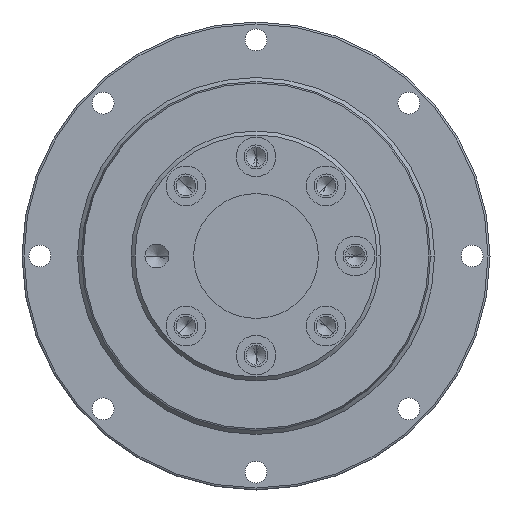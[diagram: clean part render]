
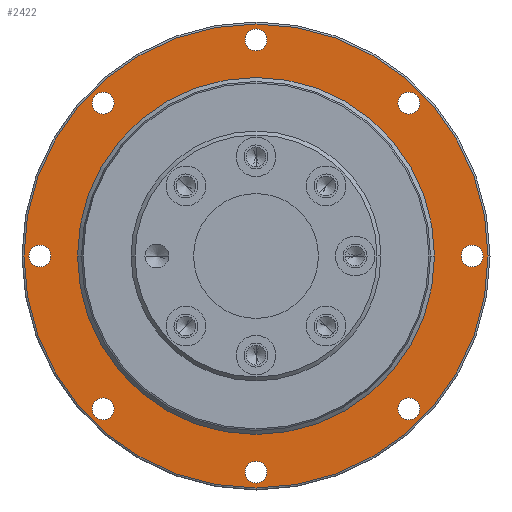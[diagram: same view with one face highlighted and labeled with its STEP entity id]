
A CAD part, left-side view. The second image highlights one B-rep face of the part: STEP entity #2422.
In plain terms, the highlighted planar face has unit normal (-1, 0, 0) as drawn and (1, 0, 0) by its records, which use the part's own axes.
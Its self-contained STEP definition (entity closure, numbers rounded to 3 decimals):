
#83=CARTESIAN_POINT('',(0.,38.537,-38.537));
#84=DIRECTION('',(-1.,0.,0.));
#85=DIRECTION('',(0.,-1.,0.));
#86=AXIS2_PLACEMENT_3D('',#83,#84,#85);
#88=CARTESIAN_POINT('',(0.,38.537,-38.537));
#89=DIRECTION('',(-1.,0.,0.));
#90=DIRECTION('',(0.,1.,0.));
#91=AXIS2_PLACEMENT_3D('',#88,#89,#90);
#93=CARTESIAN_POINT('',(0.,0.,-54.5));
#94=DIRECTION('',(-1.,0.,0.));
#95=DIRECTION('',(0.,-1.,0.));
#96=AXIS2_PLACEMENT_3D('',#93,#94,#95);
#98=CARTESIAN_POINT('',(0.,0.,-54.5));
#99=DIRECTION('',(-1.,0.,0.));
#100=DIRECTION('',(0.,1.,0.));
#101=AXIS2_PLACEMENT_3D('',#98,#99,#100);
#103=CARTESIAN_POINT('',(0.,-38.537,-38.537));
#104=DIRECTION('',(-1.,0.,0.));
#105=DIRECTION('',(0.,-1.,0.));
#106=AXIS2_PLACEMENT_3D('',#103,#104,#105);
#108=CARTESIAN_POINT('',(0.,-38.537,-38.537));
#109=DIRECTION('',(-1.,0.,0.));
#110=DIRECTION('',(0.,1.,0.));
#111=AXIS2_PLACEMENT_3D('',#108,#109,#110);
#113=CARTESIAN_POINT('',(0.,-54.5,0.));
#114=DIRECTION('',(-1.,0.,0.));
#115=DIRECTION('',(0.,-1.,0.));
#116=AXIS2_PLACEMENT_3D('',#113,#114,#115);
#118=CARTESIAN_POINT('',(0.,-54.5,0.));
#119=DIRECTION('',(-1.,0.,0.));
#120=DIRECTION('',(0.,1.,0.));
#121=AXIS2_PLACEMENT_3D('',#118,#119,#120);
#123=CARTESIAN_POINT('',(0.,-38.537,38.537));
#124=DIRECTION('',(-1.,0.,0.));
#125=DIRECTION('',(0.,-1.,0.));
#126=AXIS2_PLACEMENT_3D('',#123,#124,#125);
#128=CARTESIAN_POINT('',(0.,-38.537,38.537));
#129=DIRECTION('',(-1.,0.,0.));
#130=DIRECTION('',(0.,1.,0.));
#131=AXIS2_PLACEMENT_3D('',#128,#129,#130);
#133=CARTESIAN_POINT('',(0.,0.,54.5));
#134=DIRECTION('',(-1.,0.,0.));
#135=DIRECTION('',(0.,-1.,0.));
#136=AXIS2_PLACEMENT_3D('',#133,#134,#135);
#138=CARTESIAN_POINT('',(0.,0.,54.5));
#139=DIRECTION('',(-1.,0.,0.));
#140=DIRECTION('',(0.,1.,0.));
#141=AXIS2_PLACEMENT_3D('',#138,#139,#140);
#143=CARTESIAN_POINT('',(0.,38.537,38.537));
#144=DIRECTION('',(-1.,0.,0.));
#145=DIRECTION('',(0.,-1.,0.));
#146=AXIS2_PLACEMENT_3D('',#143,#144,#145);
#148=CARTESIAN_POINT('',(0.,38.537,38.537));
#149=DIRECTION('',(-1.,0.,0.));
#150=DIRECTION('',(0.,1.,0.));
#151=AXIS2_PLACEMENT_3D('',#148,#149,#150);
#153=CARTESIAN_POINT('',(0.,0.,0.));
#154=DIRECTION('',(1.,0.,0.));
#155=DIRECTION('',(0.,1.,0.));
#156=AXIS2_PLACEMENT_3D('',#153,#154,#155);
#158=CARTESIAN_POINT('',(0.,0.,0.));
#159=DIRECTION('',(-1.,0.,0.));
#160=DIRECTION('',(0.,1.,0.));
#161=AXIS2_PLACEMENT_3D('',#158,#159,#160);
#163=CARTESIAN_POINT('',(0.,54.5,0.));
#164=DIRECTION('',(-1.,0.,0.));
#165=DIRECTION('',(0.,-1.,0.));
#166=AXIS2_PLACEMENT_3D('',#163,#164,#165);
#168=CARTESIAN_POINT('',(0.,54.5,0.));
#169=DIRECTION('',(-1.,0.,0.));
#170=DIRECTION('',(0.,1.,0.));
#171=AXIS2_PLACEMENT_3D('',#168,#169,#170);
#1188=CARTESIAN_POINT('',(0.,0.,0.));
#1189=DIRECTION('',(-1.,0.,0.));
#1190=DIRECTION('',(0.,-1.,0.));
#1191=AXIS2_PLACEMENT_3D('',#1188,#1189,#1190);
#1203=CARTESIAN_POINT('',(0.,0.,0.));
#1204=DIRECTION('',(-1.,0.,0.));
#1205=DIRECTION('',(0.,1.,0.));
#1206=AXIS2_PLACEMENT_3D('',#1203,#1204,#1205);
#1761=CARTESIAN_POINT('',(0.,45.,0.));
#1762=CARTESIAN_POINT('',(0.,-45.,0.));
#1763=VERTEX_POINT('',#1761);
#1764=VERTEX_POINT('',#1762);
#1769=CARTESIAN_POINT('',(0.,51.75,0.));
#1770=CARTESIAN_POINT('',(0.,57.25,0.));
#1771=VERTEX_POINT('',#1769);
#1772=VERTEX_POINT('',#1770);
#1777=CARTESIAN_POINT('',(0.,35.787,38.537));
#1778=CARTESIAN_POINT('',(0.,41.287,38.537));
#1779=VERTEX_POINT('',#1777);
#1780=VERTEX_POINT('',#1778);
#1785=CARTESIAN_POINT('',(0.,-2.75,54.5));
#1786=CARTESIAN_POINT('',(0.,2.75,54.5));
#1787=VERTEX_POINT('',#1785);
#1788=VERTEX_POINT('',#1786);
#1793=CARTESIAN_POINT('',(0.,-41.287,38.537));
#1794=CARTESIAN_POINT('',(0.,-35.787,38.537));
#1795=VERTEX_POINT('',#1793);
#1796=VERTEX_POINT('',#1794);
#1801=CARTESIAN_POINT('',(0.,-57.25,0.));
#1802=CARTESIAN_POINT('',(0.,-51.75,0.));
#1803=VERTEX_POINT('',#1801);
#1804=VERTEX_POINT('',#1802);
#1809=CARTESIAN_POINT('',(0.,-41.287,-38.537));
#1810=CARTESIAN_POINT('',(0.,-35.787,-38.537));
#1811=VERTEX_POINT('',#1809);
#1812=VERTEX_POINT('',#1810);
#1817=CARTESIAN_POINT('',(0.,-2.75,-54.5));
#1818=CARTESIAN_POINT('',(0.,2.75,-54.5));
#1819=VERTEX_POINT('',#1817);
#1820=VERTEX_POINT('',#1818);
#1825=CARTESIAN_POINT('',(0.,35.787,-38.537));
#1826=CARTESIAN_POINT('',(0.,41.287,-38.537));
#1827=VERTEX_POINT('',#1825);
#1828=VERTEX_POINT('',#1826);
#1853=CARTESIAN_POINT('',(0.,-58.5,
0.));
#1854=CARTESIAN_POINT('',(0.,58.5,
0.));
#1855=VERTEX_POINT('',#1853);
#1856=VERTEX_POINT('',#1854);
#2359=CARTESIAN_POINT('',(0.,0.,0.));
#2360=DIRECTION('',(1.,0.,0.));
#2361=DIRECTION('',(0.,-1.,0.));
#2362=AXIS2_PLACEMENT_3D('',#2359,#2360,#2361);
#2363=PLANE('',#2362);
#2365=ORIENTED_EDGE('',*,*,#2364,.T.);
#2367=ORIENTED_EDGE('',*,*,#2366,.T.);
#2368=EDGE_LOOP('',(#2365,#2367));
#2369=FACE_OUTER_BOUND('',#2368,.F.);
#2371=ORIENTED_EDGE('',*,*,#2370,.F.);
#2373=ORIENTED_EDGE('',*,*,#2372,.F.);
#2374=EDGE_LOOP('',(#2371,#2373));
#2375=FACE_BOUND('',#2374,.F.);
#2377=ORIENTED_EDGE('',*,*,#2376,.F.);
#2379=ORIENTED_EDGE('',*,*,#2378,.F.);
#2380=EDGE_LOOP('',(#2377,#2379));
#2381=FACE_BOUND('',#2380,.F.);
#2383=ORIENTED_EDGE('',*,*,#2382,.F.);
#2385=ORIENTED_EDGE('',*,*,#2384,.F.);
#2386=EDGE_LOOP('',(#2383,#2385));
#2387=FACE_BOUND('',#2386,.F.);
#2389=ORIENTED_EDGE('',*,*,#2388,.F.);
#2391=ORIENTED_EDGE('',*,*,#2390,.F.);
#2392=EDGE_LOOP('',(#2389,#2391));
#2393=FACE_BOUND('',#2392,.F.);
#2395=ORIENTED_EDGE('',*,*,#2394,.F.);
#2397=ORIENTED_EDGE('',*,*,#2396,.F.);
#2398=EDGE_LOOP('',(#2395,#2397));
#2399=FACE_BOUND('',#2398,.F.);
#2401=ORIENTED_EDGE('',*,*,#2400,.F.);
#2403=ORIENTED_EDGE('',*,*,#2402,.F.);
#2404=EDGE_LOOP('',(#2401,#2403));
#2405=FACE_BOUND('',#2404,.F.);
#2407=ORIENTED_EDGE('',*,*,#2406,.F.);
#2409=ORIENTED_EDGE('',*,*,#2408,.F.);
#2410=EDGE_LOOP('',(#2407,#2409));
#2411=FACE_BOUND('',#2410,.F.);
#2412=ORIENTED_EDGE('',*,*,#2341,.T.);
#2413=ORIENTED_EDGE('',*,*,#2326,.F.);
#2414=EDGE_LOOP('',(#2412,#2413));
#2415=FACE_BOUND('',#2414,.F.);
#2417=ORIENTED_EDGE('',*,*,#2416,.F.);
#2419=ORIENTED_EDGE('',*,*,#2418,.F.);
#2420=EDGE_LOOP('',(#2417,#2419));
#2421=FACE_BOUND('',#2420,.F.);
#2422=ADVANCED_FACE('',(#2369,#2375,#2381,#2387,#2393,#2399,#2405,#2411,#2415,
#2421),#2363,.T.);
#87=CIRCLE('',#86,2.75);
#92=CIRCLE('',#91,2.75);
#97=CIRCLE('',#96,2.75);
#102=CIRCLE('',#101,2.75);
#107=CIRCLE('',#106,2.75);
#112=CIRCLE('',#111,2.75);
#117=CIRCLE('',#116,2.75);
#122=CIRCLE('',#121,2.75);
#127=CIRCLE('',#126,2.75);
#132=CIRCLE('',#131,2.75);
#137=CIRCLE('',#136,2.75);
#142=CIRCLE('',#141,2.75);
#147=CIRCLE('',#146,2.75);
#152=CIRCLE('',#151,2.75);
#157=CIRCLE('',#156,45.);
#162=CIRCLE('',#161,45.);
#167=CIRCLE('',#166,2.75);
#172=CIRCLE('',#171,2.75);
#1192=CIRCLE('',#1191,58.5);
#1207=CIRCLE('',#1206,58.5);
#2326=EDGE_CURVE('',#1763,#1764,#162,.T.);
#2341=EDGE_CURVE('',#1763,#1764,#157,.T.);
#2364=EDGE_CURVE('',#1855,#1856,#1192,.T.);
#2366=EDGE_CURVE('',#1856,#1855,#1207,.T.);
#2370=EDGE_CURVE('',#1827,#1828,#87,.T.);
#2372=EDGE_CURVE('',#1828,#1827,#92,.T.);
#2376=EDGE_CURVE('',#1819,#1820,#97,.T.);
#2378=EDGE_CURVE('',#1820,#1819,#102,.T.);
#2382=EDGE_CURVE('',#1811,#1812,#107,.T.);
#2384=EDGE_CURVE('',#1812,#1811,#112,.T.);
#2388=EDGE_CURVE('',#1803,#1804,#117,.T.);
#2390=EDGE_CURVE('',#1804,#1803,#122,.T.);
#2394=EDGE_CURVE('',#1795,#1796,#127,.T.);
#2396=EDGE_CURVE('',#1796,#1795,#132,.T.);
#2400=EDGE_CURVE('',#1787,#1788,#137,.T.);
#2402=EDGE_CURVE('',#1788,#1787,#142,.T.);
#2406=EDGE_CURVE('',#1779,#1780,#147,.T.);
#2408=EDGE_CURVE('',#1780,#1779,#152,.T.);
#2416=EDGE_CURVE('',#1771,#1772,#167,.T.);
#2418=EDGE_CURVE('',#1772,#1771,#172,.T.);
